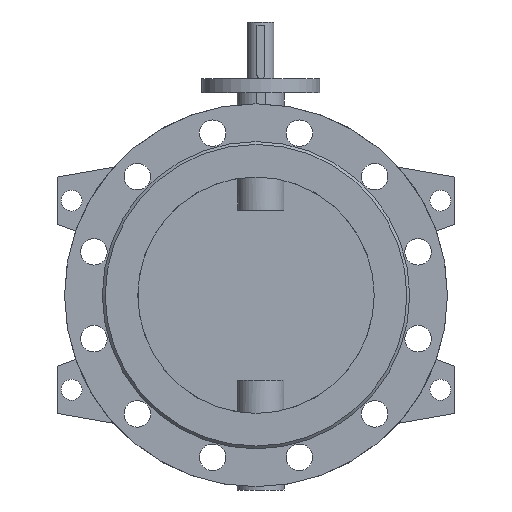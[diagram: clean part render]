
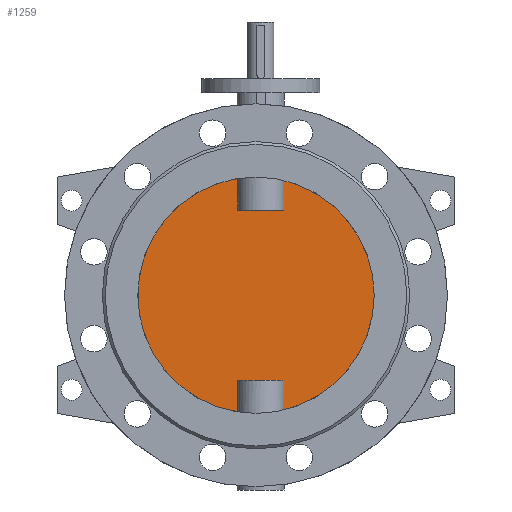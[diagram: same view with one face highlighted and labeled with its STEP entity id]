
A CAD part, front view. The second image highlights one B-rep face of the part: STEP entity #1259.
In plain terms, the highlighted planar face has unit normal (0, -1, 0).
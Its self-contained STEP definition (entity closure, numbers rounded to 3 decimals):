
#1259=ADVANCED_FACE('',(#2605),#2607,.F.);
#2605=FACE_BOUND('',#2606,.T.);
#2606=EDGE_LOOP('',(#3369,#3370,#3371,#3372,#3373,#3374,#3375,#3376));
#2607=PLANE('',#2608);
#2608=AXIS2_PLACEMENT_3D('',#2609,#2610,#2611);
#2609=CARTESIAN_POINT('',(0.,-5.,0.));
#2610=DIRECTION('',(0.,1.,0.));
#2611=DIRECTION('',(1.,0.,0.));
#3369=ORIENTED_EDGE('',*,*,#3751,.T.);
#3370=ORIENTED_EDGE('',*,*,#3767,.T.);
#3371=ORIENTED_EDGE('',*,*,#3768,.T.);
#3372=ORIENTED_EDGE('',*,*,#3769,.T.);
#3373=ORIENTED_EDGE('',*,*,#3753,.T.);
#3374=ORIENTED_EDGE('',*,*,#3770,.T.);
#3375=ORIENTED_EDGE('',*,*,#3771,.T.);
#3376=ORIENTED_EDGE('',*,*,#3772,.T.);
#3751=EDGE_CURVE('',#4351,#4352,#4353,.F.);
#3753=EDGE_CURVE('',#4356,#4354,#4357,.F.);
#3767=EDGE_CURVE('',#4352,#4383,#4384,.T.);
#3768=EDGE_CURVE('',#4383,#4385,#4386,.F.);
#3769=EDGE_CURVE('',#4385,#4356,#4387,.F.);
#3770=EDGE_CURVE('',#4354,#4388,#4389,.F.);
#3771=EDGE_CURVE('',#4388,#4390,#4391,.F.);
#3772=EDGE_CURVE('',#4390,#4351,#4392,.T.);
#4351=VERTEX_POINT('',#6453);
#4352=VERTEX_POINT('',#6454);
#4353=CIRCLE('',#6455,125.);
#4354=VERTEX_POINT('',#6459);
#4356=VERTEX_POINT('',#6549);
#4357=CIRCLE('',#6550,125.);
#4383=VERTEX_POINT('',#6943);
#4384=LINE('',#6944,#6945);
#4385=VERTEX_POINT('',#6947);
#4386=LINE('',#6948,#6949);
#4387=LINE('',#6951,#6952);
#4388=VERTEX_POINT('',#6954);
#4389=LINE('',#6955,#6956);
#4390=VERTEX_POINT('',#6958);
#4391=LINE('',#6959,#6960);
#4392=LINE('',#6962,#6963);
#6453=CARTESIAN_POINT('',(29.495,-5.,-121.47));
#6454=CARTESIAN_POINT('',(29.495,-5.,121.47));
#6455=AXIS2_PLACEMENT_3D('',#6456,#6457,#6458);
#6456=CARTESIAN_POINT('',(0.,-5.,0.));
#6457=DIRECTION('',(0.,1.,0.));
#6458=DIRECTION('',(0.236,0.,0.972));
#6459=CARTESIAN_POINT('',(-19.495,-5.,-123.47));
#6549=CARTESIAN_POINT('',(-19.495,-5.,123.47));
#6550=AXIS2_PLACEMENT_3D('',#6551,#6552,#6553);
#6551=CARTESIAN_POINT('',(0.,-5.,0.));
#6552=DIRECTION('',(0.,1.,0.));
#6553=DIRECTION('',(-0.156,0.,-0.988));
#6943=CARTESIAN_POINT('',(29.495,-5.,90.));
#6944=CARTESIAN_POINT('',(29.495,-5.,121.47));
#6945=VECTOR('',#6946,1.);
#6946=DIRECTION('',(0.,0.,-1.));
#6947=CARTESIAN_POINT('',(-19.495,-5.,90.));
#6948=CARTESIAN_POINT('',(-19.495,-5.,90.));
#6949=VECTOR('',#6950,1.);
#6950=DIRECTION('',(1.,0.,0.));
#6951=CARTESIAN_POINT('',(-19.495,-5.,123.47));
#6952=VECTOR('',#6953,1.);
#6953=DIRECTION('',(0.,0.,-1.));
#6954=CARTESIAN_POINT('',(-19.495,-5.,-90.));
#6955=CARTESIAN_POINT('',(-19.495,-5.,-90.));
#6956=VECTOR('',#6957,1.);
#6957=DIRECTION('',(0.,0.,-1.));
#6958=CARTESIAN_POINT('',(29.495,-5.,-90.));
#6959=CARTESIAN_POINT('',(29.495,-5.,-90.));
#6960=VECTOR('',#6961,1.);
#6961=DIRECTION('',(-1.,0.,0.));
#6962=CARTESIAN_POINT('',(29.495,-5.,-90.));
#6963=VECTOR('',#6964,1.);
#6964=DIRECTION('',(0.,0.,-1.));
